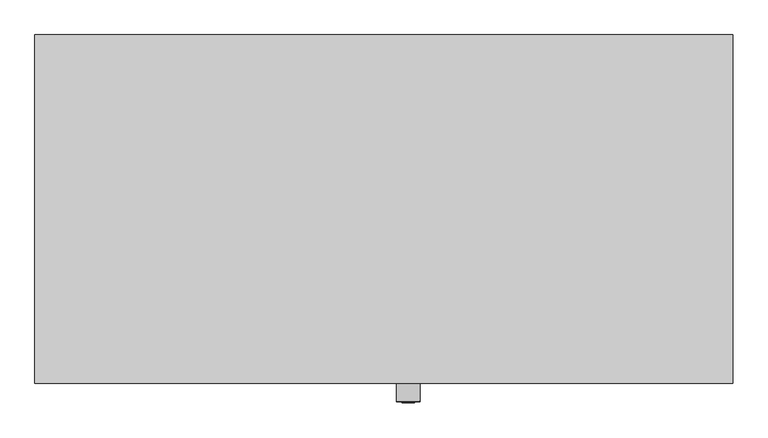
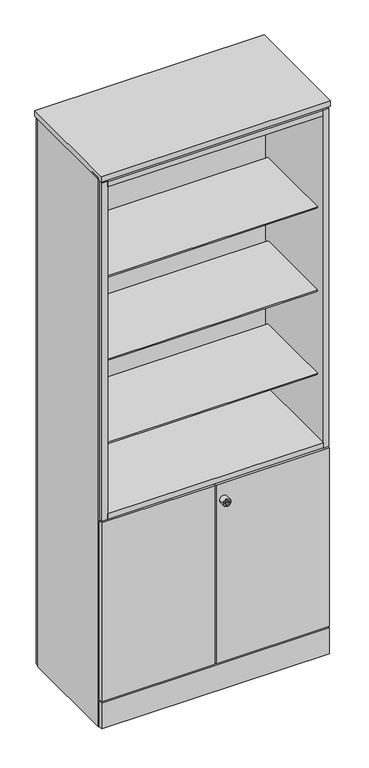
"""IFC4 building model written with IfcOpenShell, lengths in millimetres: furniture geometry, Furniture_Storage_Spacestor_SignatureStoragewall : Doors & Display Module."""

from ifc_helpers import new_model, si_unit, point, frame, origin, origin_with_axes, place, context, project, spatial, polyline, circle_curve, ellipse_curve, trimmed, outline, extrude, source, transform, mapped, element, save
from ifc_brep_helpers import plane_surface, cylinder_surface, revolved_surface, advanced_brep


def furniture_51bc77b1(model_context):
    return source(origin(), model_context, "Body", "SolidModel", [
        extrude(outline(polyline([(996.5, 459.0), (3.5, 459.0), (3.5, 477.0), (996.5, 477.0), (996.5, 459.0)])), origin_with_axes(), (0.0, 0.0, 1.0), 2518.0),
        extrude(outline(polyline([(996.5, -18.0), (3.5, -18.0), (3.5, 0.0), (996.5, 0.0), (996.5, -18.0)])), origin_with_axes(), (0.0, 0.0, 1.0), 118.0),
        extrude(outline(polyline([(1000.0, -20.5), (0.0, -20.5), (0.0, 479.5), (1000.0, 479.5), (1000.0, -20.5)])), frame((0.0, 0.0, 2525.0), z_axis=(0.0, 0.0, 1.0), x_axis=(1.0, 0.0, 0.0)), (0.0, 0.0, 1.0), 25.5),
        extrude(outline(polyline([(1000.0, 0.0), (989.0, 0.0), (989.0, 459.0), (1000.0, 459.0), (1000.0, 0.0)])), origin_with_axes(), (0.0, 0.0, 1.0), 2532.5),
        extrude(outline(polyline([(11.0, 0.0), (0.0, 0.0), (0.0, 459.0), (11.0, 459.0), (11.0, 0.0)])), origin_with_axes(), (0.0, 0.0, 1.0), 2532.5),
        extrude(outline(polyline([(970.5, 25.0), (29.5, 25.0), (29.5, 398.0), (970.5, 398.0), (970.5, 25.0)])), frame((0.0, 0.0, 2039.0), z_axis=(0.0, 0.0, 1.0), x_axis=(1.0, 0.0, 0.0)), (0.0, 0.0, 1.0), 6.0),
        extrude(outline(polyline([(970.5, 25.0), (29.5, 25.0), (29.5, 398.0), (970.5, 398.0), (970.5, 25.0)])), frame((0.0, 0.0, 1655.0), z_axis=(0.0, 0.0, 1.0), x_axis=(1.0, 0.0, 0.0)), (0.0, 0.0, 1.0), 6.0),
        extrude(outline(polyline([(970.5, 25.0), (29.5, 25.0), (29.5, 398.0), (970.5, 398.0), (970.5, 25.0)])), frame((0.0, 0.0, 1271.0), z_axis=(0.0, 0.0, 1.0), x_axis=(1.0, 0.0, 0.0)), (0.0, 0.0, 1.0), 6.0),
        extrude(outline(polyline([(989.0, 0.0), (11.0, 0.0), (11.0, 459.0), (989.0, 459.0), (989.0, 0.0)])), frame((0.0, 0.0, 110.5), z_axis=(0.0, 0.0, 1.0), x_axis=(1.0, 0.0, 0.0)), (0.0, 0.0, 1.0), 22.0),
        extrude(outline(polyline([(989.0, 0.0), (11.0, 0.0), (11.0, 459.0), (989.0, 459.0), (989.0, 0.0)])), frame((0.0, 0.0, 2510.0), z_axis=(0.0, 0.0, 1.0), x_axis=(1.0, 0.0, 0.0)), (0.0, 0.0, 1.0), 22.0),
        extrude(outline(polyline([(989.0, 0.0), (11.0, 0.0), (11.0, 459.0), (989.0, 459.0), (989.0, 0.0)])), frame((0.0, 0.0, 942.5), z_axis=(0.0, 0.0, 1.0), x_axis=(1.0, 0.0, 0.0)), (0.0, 0.0, 1.0), 22.0),
        extrude(outline(polyline([(970.5, -18.0), (29.5, -18.0), (29.5, 416.0), (970.5, 416.0), (970.5, -18.0)])), frame((0.0, 0.0, 957.5), z_axis=(0.0, 0.0, 1.0), x_axis=(1.0, 0.0, 0.0)), (0.0, 0.0, 1.0), 25.0),
        extrude(outline(polyline([(29.5, -18.0), (4.5, -18.0), (4.5, 416.0), (29.5, 416.0), (29.5, -18.0)])), frame((0.0, 0.0, 957.0), z_axis=(0.0, 0.0, 1.0), x_axis=(1.0, 0.0, 0.0)), (0.0, 0.0, 1.0), 1559.0),
        extrude(outline(polyline([(995.5, -18.0), (970.5, -18.0), (970.5, 416.0), (995.5, 416.0), (995.5, -18.0)])), frame((0.0, 0.0, 957.0), z_axis=(0.0, 0.0, 1.0), x_axis=(1.0, 0.0, 0.0)), (0.0, 0.0, 1.0), 1559.0),
        extrude(outline(polyline([(995.5, 416.0), (4.5, 416.0), (4.5, 434.0), (995.5, 434.0), (995.5, 416.0)])), frame((0.0, 0.0, 957.0), z_axis=(0.0, 0.0, 1.0), x_axis=(1.0, 0.0, 0.0)), (0.0, 0.0, 1.0), 1559.0),
        extrude(outline(polyline([(970.5, -18.0), (29.5, -18.0), (29.5, 416.0), (970.5, 416.0), (970.5, -18.0)])), frame((0.0, 0.0, 2490.5), z_axis=(0.0, 0.0, 1.0), x_axis=(1.0, 0.0, 0.0)), (0.0, 0.0, 1.0), 25.0),
        extrude(outline(polyline([(3.5, -18.0), (3.5, 0.0), (496.5, 0.0), (496.5, -18.0), (3.5, -18.0)])), frame((0.0, 0.0, 125.0), z_axis=(0.0, 0.0, 1.0), x_axis=(1.0, 0.0, 0.0)), (0.0, 0.0, 1.0), 825.0),
        extrude(outline(polyline([(996.5, -18.0), (503.5, -18.0), (503.5, 0.0), (996.5, 0.0), (996.5, -18.0)])), frame((0.0, 0.0, 125.0), z_axis=(0.0, 0.0, 1.0), x_axis=(1.0, 0.0, 0.0)), (0.0, 0.0, 1.0), 825.0),
        advanced_brep(
        [(552.0, -45.3116344, 875.0), (518.0, -45.3116344, 875.0), (518.0, -18.0, 875.0), (552.0, -18.0, 875.0), (535.0, -18.0, 875.0), (543.9747319, -46.3150077, 875.0), (526.0252681, -46.3150077, 875.0), (519.0033734, -46.3150077, 875.0), (550.9966266, -46.3150077, 875.0), (543.9747319, -47.4703043, 875.0), (526.0252681, -47.4703043, 875.0), (539.8245152, -47.4703043, 875.0), (539.8245152, -47.4703043, 873.6366562), (530.1754848, -47.4703043, 873.6366562), (530.1754848, -47.4703043, 875.0), (530.1754848, -47.4703043, 876.3633438), (539.8245152, -47.4703043, 876.3633438), (530.1754848, -27.8604291, 873.6366562), (539.8245152, -27.8604291, 873.6366562), (539.8245152, -27.8604291, 876.3633438), (530.1754848, -27.8604291, 876.3633438)],
        [
            (0, 1, circle_curve(frame((535.0, -45.3116344, 875.0), z_axis=(0.0, 1.0, 0.0), x_axis=(-1.0, 0.0, 0.0)), 17.0)),
            (1, 2),
            (2, 3, circle_curve(frame((535.0, -18.0, 875.0), z_axis=(0.0, -1.0, 0.0), x_axis=(-1.0, 0.0, 0.0)), 17.0)),
            (3, 0),
            (1, 0, circle_curve(frame((535.0, -45.3116344, 875.0), z_axis=(0.0, 1.0, 0.0), x_axis=(-1.0, 0.0, 0.0)), 17.0)),
            (3, 2, circle_curve(frame((535.0, -18.0, 875.0), z_axis=(0.0, -1.0, 0.0), x_axis=(-1.0, 0.0, 0.0)), 17.0)),
            (2, 4),
            (4, 3),
            (5, 6, circle_curve(frame((535.0, -46.3150077, 875.0), z_axis=(0.0, 1.0, 0.0), x_axis=(-1.0, 0.0, 0.0)), 8.9747319)),
            (6, 7),
            (7, 8, circle_curve(frame((535.0, -46.3150077, 875.0), z_axis=(0.0, -1.0, 0.0), x_axis=(-1.0, 0.0, 0.0)), 15.9966266)),
            (8, 5),
            (6, 5, circle_curve(frame((535.0, -46.3150077, 875.0), z_axis=(0.0, 1.0, 0.0), x_axis=(-1.0, 0.0, 0.0)), 8.9747319)),
            (8, 7, circle_curve(frame((535.0, -46.3150077, 875.0), z_axis=(0.0, -1.0, 0.0), x_axis=(-1.0, 0.0, 0.0)), 15.9966266)),
            (0, 8, circle_curve(frame((550.9966266, -45.3116344, 875.0), z_axis=(0.0, 0.0, -1.0), x_axis=(1.0, 0.0, 0.0)), 1.0033734)),
            (7, 1, circle_curve(frame((519.0033734, -45.3116344, 875.0), z_axis=(0.0, 0.0, -1.0), x_axis=(-1.0, 0.0, 0.0)), 1.0033734)),
            (5, 9),
            (9, 10, circle_curve(frame((535.0, -47.4703043, 875.0), z_axis=(0.0, 1.0, 0.0), x_axis=(-1.0, 0.0, 0.0)), 8.9747319)),
            (10, 6),
            (10, 9, circle_curve(frame((535.0, -47.4703043, 875.0), z_axis=(0.0, 1.0, 0.0), x_axis=(-1.0, 0.0, 0.0)), 8.9747319)),
            (9, 11),
            (11, 12),
            (12, 13),
            (13, 14),
            (14, 10),
            (14, 15),
            (15, 16),
            (16, 11),
            (17, 18),
            (18, 19),
            (19, 20),
            (20, 17),
            (17, 13),
            (12, 18),
            (16, 19),
            (15, 20),
        ],
        [
            cylinder_surface(frame((535.0, -2627.0581012, 875.0), z_axis=(0.0, -1.0, 0.0), x_axis=(-1.0, 0.0, 0.0)), 17.0),
            plane_surface(frame((535.0, -18.0, 875.0), z_axis=(0.0, 1.0, 0.0), x_axis=(-1.0, 0.0, 0.0))),
            plane_surface(frame((535.0, -46.3150077, 875.0), z_axis=(0.0, -1.0, 0.0), x_axis=(-1.0, 0.0, 0.0))),
            revolved_surface(trimmed(ellipse_curve(frame((519.0033734, -45.3116344, 875.0), z_axis=(0.0, 0.0, 1.0), x_axis=(-1.0, 0.0, 0.0)), 1.0033734, 1.0033734), [point((518.0, -45.3116344, 875.0))], [point((519.0033734, -46.3150077, 875.0))], True, "CARTESIAN"), (535.0, -2627.0581012, 875.0), (0.0, -1.0, 0.0)),
            cylinder_surface(frame((535.0, -2627.0581012, 875.0), z_axis=(0.0, -1.0, 0.0), x_axis=(-1.0, 0.0, 0.0)), 8.9747319),
            plane_surface(frame((535.0, -47.4703043, 875.0), z_axis=(0.0, -1.0, 0.0), x_axis=(-1.0, 0.0, 0.0))),
            plane_surface(frame((539.4565249, -27.8604291, 873.6366562), z_axis=(0.0, -1.0, 0.0), x_axis=(-1.0, 0.0, 0.0))),
            plane_surface(frame((530.1754848, -49.2046383, 873.6366562), z_axis=(0.0, 0.0, 1.0), x_axis=(0.0, 1.0, 0.0))),
            plane_surface(frame((539.8245152, -49.2046383, 873.6366562), z_axis=(-1.0, 0.0, 0.0), x_axis=(0.0, 1.0, 0.0))),
            plane_surface(frame((539.8245152, -49.2046383, 876.3633438), z_axis=(0.0, 0.0, -1.0), x_axis=(0.0, 1.0, 0.0))),
            plane_surface(frame((530.1754848, -49.2046383, 876.3633438), z_axis=(1.0, 0.0, 0.0), x_axis=(0.0, 1.0, 0.0))),
        ],
        [
            (0, [[1, 2, 3, 4]]),
            (0, [[-2, 5, -4, 6]]),
            (1, [[-3, 7, 8]]),
            (1, [[-6, -8, -7]]),
            (2, [[9, 10, 11, 12]]),
            (2, [[-10, 13, -12, 14]]),
            (3, [[-1, 15, -11, 16]]),
            (3, [[-5, -16, -14, -15]]),
            (4, [[-9, 17, 18, 19]]),
            (4, [[-13, -19, 20, -17]]),
            (5, [[-18, 21, 22, 23, 24, 25]]),
            (5, [[-20, -25, 26, 27, 28, -21]]),
            (6, [[29, 30, 31, 32]]),
            (7, [[-29, 33, -23, 34]]),
            (8, [[-30, -34, -22, -28, 35]]),
            (9, [[-31, -35, -27, 36]]),
            (10, [[-32, -36, -26, -24, -33]]),
        ],
    ),
    ])


if __name__ == "__main__":
    model = new_model("IFC4")
    model_context = context("Model", 3, world=origin())
    ifc_project = project(units=[si_unit("LENGTHUNIT", "METRE", prefix="MILLI")], contexts=[model_context])
    site = spatial("IfcSite", under=ifc_project)
    building = spatial("IfcBuilding", under=site)
    placement = place(None, origin())
    furniture_shape = furniture_51bc77b1(model_context)
    element("IfcFurniture", 1, ObjectType="Furniture_Storage_Spacestor_SignatureStoragewall : Doors & Display Module", at=placement, inside=building, context=model_context, shape_type="MappedRepresentation", body=[
        mapped(furniture_shape, transform((0.0, 0.0, 0.0), x_axis=(1.0, 0.0, 0.0), y_axis=(0.0, 1.0, 0.0), z_axis=(0.0, 0.0, 1.0))),
    ])
    save(model, "model.ifc")
